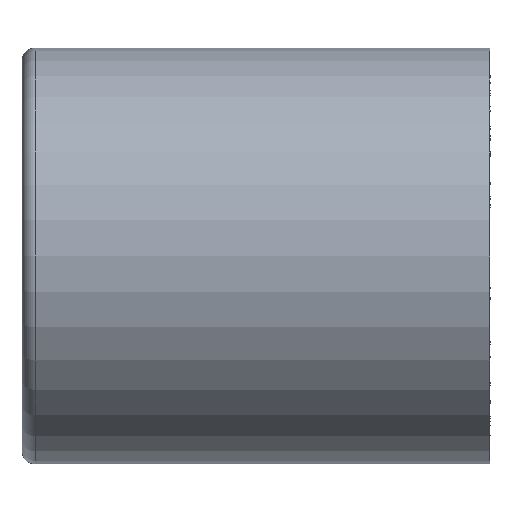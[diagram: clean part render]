
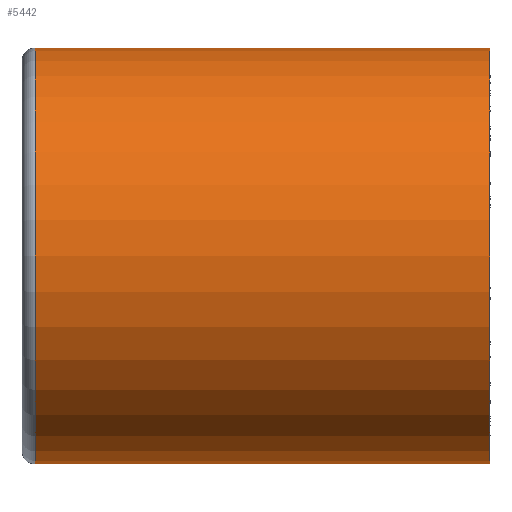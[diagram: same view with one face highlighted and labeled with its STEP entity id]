
A CAD part, front view. The second image highlights one B-rep face of the part: STEP entity #5442.
In plain terms, the highlighted cylindrical face has radius 32 mm (diameter 64 mm), a partial arc.
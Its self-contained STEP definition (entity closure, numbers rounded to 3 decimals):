
#248 = DIRECTION ( 'NONE',  ( 0., 0., -1. ) ) ;
#261 = DIRECTION ( 'NONE',  ( 1., 0., 0. ) ) ;
#270 = CARTESIAN_POINT ( 'NONE',  ( -32.602, 7.851, 0. ) ) ;
#347 = CARTESIAN_POINT ( 'NONE',  ( -102.602, 7.851, -32. ) ) ;
#421 = EDGE_CURVE ( 'NONE', #4437, #6980, #6791, .T. ) ;
#651 = ORIENTED_EDGE ( 'NONE', *, *, #5395, .F. ) ;
#1065 = CIRCLE ( 'NONE', #6539, 32. ) ;
#1167 = EDGE_LOOP ( 'NONE', ( #3846, #6943, #3564, #651 ) ) ;
#1222 = CYLINDRICAL_SURFACE ( 'NONE', #3052, 32. ) ;
#1251 = VECTOR ( 'NONE', #6955, 1000. ) ;
#1795 = DIRECTION ( 'NONE',  ( 1., 0., 0. ) ) ;
#1838 = CARTESIAN_POINT ( 'NONE',  ( -20.571, 7.851, 32. ) ) ;
#2237 = CARTESIAN_POINT ( 'NONE',  ( -32.602, 7.851, -32. ) ) ;
#2548 = EDGE_CURVE ( 'NONE', #4734, #4437, #1065, .T. ) ;
#3052 = AXIS2_PLACEMENT_3D ( 'NONE', #6802, #6408, #5331 ) ;
#3174 = FACE_OUTER_BOUND ( 'NONE', #1167, .T. ) ;
#3269 = CARTESIAN_POINT ( 'NONE',  ( -32.602, 7.851, 32. ) ) ;
#3564 = ORIENTED_EDGE ( 'NONE', *, *, #421, .T. ) ;
#3837 = CIRCLE ( 'NONE', #4938, 32. ) ;
#3846 = ORIENTED_EDGE ( 'NONE', *, *, #5208, .F. ) ;
#4437 = VERTEX_POINT ( 'NONE', #347 ) ;
#4734 = VERTEX_POINT ( 'NONE', #4903 ) ;
#4903 = CARTESIAN_POINT ( 'NONE',  ( -102.602, 7.851, 32. ) ) ;
#4938 = AXIS2_PLACEMENT_3D ( 'NONE', #270, #261, #248 ) ;
#5005 = VERTEX_POINT ( 'NONE', #3269 ) ;
#5208 = EDGE_CURVE ( 'NONE', #4734, #5005, #6945, .T. ) ;
#5329 = VECTOR ( 'NONE', #1795, 1000. ) ;
#5331 = DIRECTION ( 'NONE',  ( 0., 0., -1. ) ) ;
#5395 = EDGE_CURVE ( 'NONE', #5005, #6980, #3837, .T. ) ;
#5442 = ADVANCED_FACE ( 'NONE', ( #3174 ), #1222, .T. ) ;
#5526 = DIRECTION ( 'NONE',  ( 0., 0., 1. ) ) ;
#5551 = DIRECTION ( 'NONE',  ( 1., 0., 0. ) ) ;
#5570 = CARTESIAN_POINT ( 'NONE',  ( -102.602, 7.851, 0. ) ) ;
#6408 = DIRECTION ( 'NONE',  ( 1., 0., 0. ) ) ;
#6539 = AXIS2_PLACEMENT_3D ( 'NONE', #5570, #5551, #5526 ) ;
#6769 = CARTESIAN_POINT ( 'NONE',  ( -20.571, 7.851, -32. ) ) ;
#6791 = LINE ( 'NONE', #6769, #1251 ) ;
#6802 = CARTESIAN_POINT ( 'NONE',  ( -20.571, 7.851, 0. ) ) ;
#6943 = ORIENTED_EDGE ( 'NONE', *, *, #2548, .T. ) ;
#6945 = LINE ( 'NONE', #1838, #5329 ) ;
#6955 = DIRECTION ( 'NONE',  ( 1., 0., 0. ) ) ;
#6980 = VERTEX_POINT ( 'NONE', #2237 ) ;
